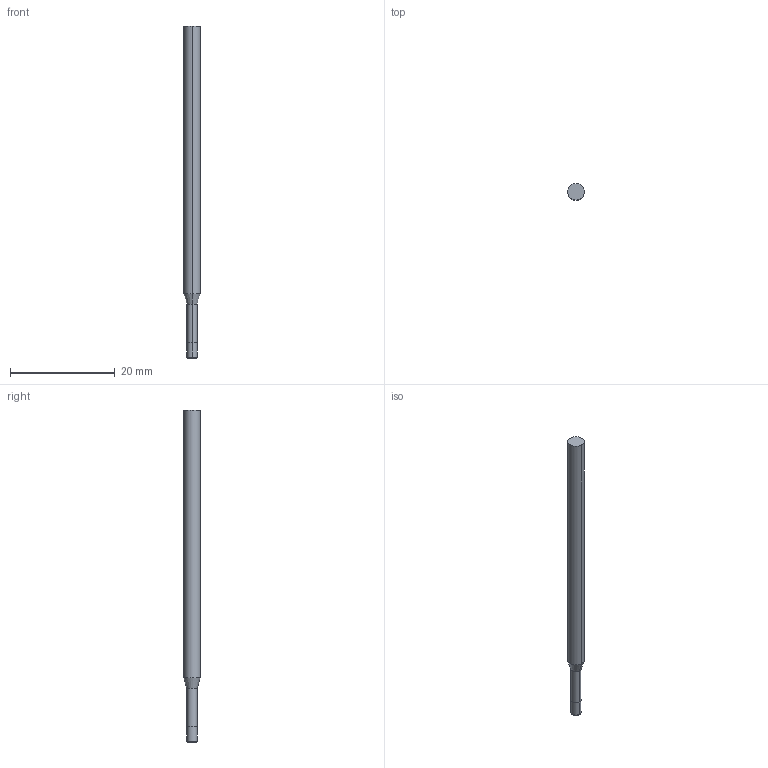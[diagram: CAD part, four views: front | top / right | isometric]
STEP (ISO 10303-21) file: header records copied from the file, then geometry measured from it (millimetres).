
FILE_DESCRIPTION((' '),'2;1');
FILE_NAME( '3MVS0781R.005N5AH.stp', '2026-01-21T19:08:46', (' '), ('--- Datakit www.datakit.com---'), ' Datakit CrossCadWare V2025.4 Sep 19 2025', 'Mastercam 2027', ' ');
FILE_SCHEMA(('AUTOMOTIVE_DESIGN { 1 0 10303 214 1 1 1 1 }'));
Length unit declared in the file: inch
Products named in the file (1): 3MVS0781R
Bounding box: 3.17 x 3.17 x 63.5 mm (x, y, z)
Volume: 447.9 mm3; surface area: 602.5 mm2
Topology: 1 solids, 1 shells, 12 faces, 22 edges, 12 vertices
Faces by surface type: cylinder 6, plane 2, torus 2, cone 2
Entity records: 377 total; most frequent: DIRECTION 70, CARTESIAN_POINT 51, ORIENTED_EDGE 44, AXIS2_PLACEMENT_3D 31, EDGE_CURVE 22, CIRCLE 14, VERTEX_POINT 12, EDGE_LOOP 12
